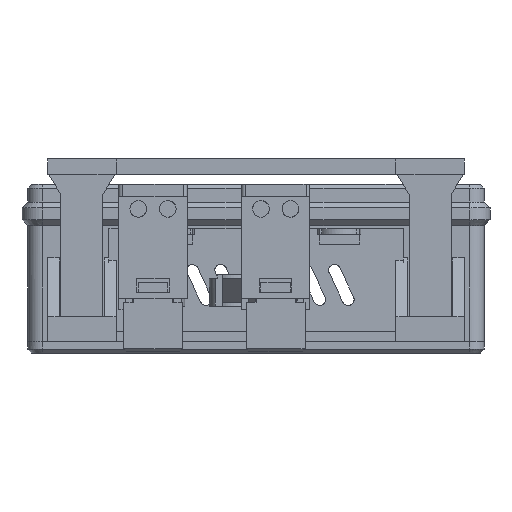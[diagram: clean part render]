
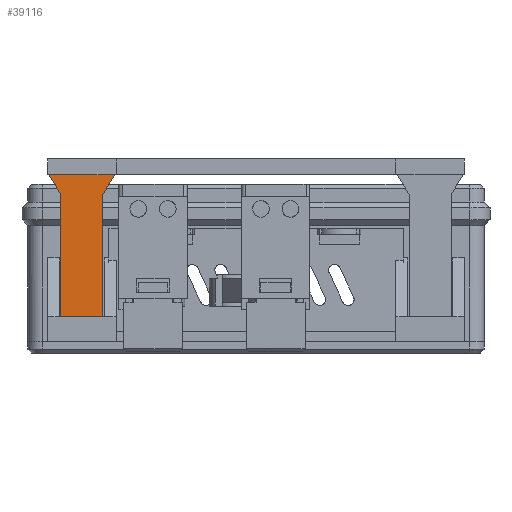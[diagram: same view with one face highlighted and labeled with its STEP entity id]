
A CAD part, left-side view. The second image highlights one B-rep face of the part: STEP entity #39116.
In plain terms, the highlighted planar face has unit normal (-1, 0, 0).
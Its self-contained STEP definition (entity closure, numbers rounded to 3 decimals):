
#36976 = PLANE('',#36977);
#36977 = AXIS2_PLACEMENT_3D('',#36978,#36979,#36980);
#36978 = CARTESIAN_POINT('',(-57.25,42.5,40.));
#36979 = DIRECTION('',(0.,0.,-1.));
#36980 = DIRECTION('',(1.,0.,0.));
#37422 = EDGE_CURVE('',#37423,#37425,#37427,.T.);
#37423 = VERTEX_POINT('',#37424);
#37424 = CARTESIAN_POINT('',(-47.25,42.269,40.));
#37425 = VERTEX_POINT('',#37426);
#37426 = CARTESIAN_POINT('',(-47.25,28.731,40.));
#37427 = SURFACE_CURVE('',#37428,(#37432,#37439),.PCURVE_S1.);
#37428 = LINE('',#37429,#37430);
#37429 = CARTESIAN_POINT('',(-47.25,42.269,40.));
#37430 = VECTOR('',#37431,1.);
#37431 = DIRECTION('',(0.,-1.,0.));
#37432 = PCURVE('',#36976,#37433);
#37433 = DEFINITIONAL_REPRESENTATION('',(#37434),#37438);
#37434 = LINE('',#37435,#37436);
#37435 = CARTESIAN_POINT('',(10.,0.231));
#37436 = VECTOR('',#37437,1.);
#37437 = DIRECTION('',(0.,1.));
#37438 = ( GEOMETRIC_REPRESENTATION_CONTEXT(2) 
PARAMETRIC_REPRESENTATION_CONTEXT() REPRESENTATION_CONTEXT('2D SPACE',''
  ) );
#37439 = PCURVE('',#37440,#37445);
#37440 = PLANE('',#37441);
#37441 = AXIS2_PLACEMENT_3D('',#37442,#37443,#37444);
#37442 = CARTESIAN_POINT('',(-47.25,42.269,11.));
#37443 = DIRECTION('',(-1.,0.,0.));
#37444 = DIRECTION('',(0.,-1.,0.));
#37445 = DEFINITIONAL_REPRESENTATION('',(#37446),#37450);
#37446 = LINE('',#37447,#37448);
#37447 = CARTESIAN_POINT('',(0.,29.));
#37448 = VECTOR('',#37449,1.);
#37449 = DIRECTION('',(1.,0.));
#37450 = ( GEOMETRIC_REPRESENTATION_CONTEXT(2) 
PARAMETRIC_REPRESENTATION_CONTEXT() REPRESENTATION_CONTEXT('2D SPACE',''
  ) );
#37468 = PLANE('',#37469);
#37469 = AXIS2_PLACEMENT_3D('',#37470,#37471,#37472);
#37470 = CARTESIAN_POINT('',(-47.25,31.2,36.));
#37471 = DIRECTION('',(0.,-0.851,-0.525));
#37472 = DIRECTION('',(1.,0.,0.));
#37522 = PLANE('',#37523);
#37523 = AXIS2_PLACEMENT_3D('',#37524,#37525,#37526);
#37524 = CARTESIAN_POINT('',(-37.05,39.8,36.));
#37525 = DIRECTION('',(0.,0.851,-0.525));
#37526 = DIRECTION('',(-1.,0.,0.));
#38912 = PLANE('',#38913);
#38913 = AXIS2_PLACEMENT_3D('',#38914,#38915,#38916);
#38914 = CARTESIAN_POINT('',(-47.25,39.8,11.));
#38915 = DIRECTION('',(0.,0.,-1.));
#38916 = DIRECTION('',(1.,0.,0.));
#38932 = VERTEX_POINT('',#38933);
#38933 = CARTESIAN_POINT('',(-47.25,31.2,11.));
#38947 = PLANE('',#38948);
#38948 = AXIS2_PLACEMENT_3D('',#38949,#38950,#38951);
#38949 = CARTESIAN_POINT('',(-47.25,31.2,11.));
#38950 = DIRECTION('',(0.,-1.,0.));
#38951 = DIRECTION('',(1.,0.,0.));
#38959 = EDGE_CURVE('',#38932,#38960,#38962,.T.);
#38960 = VERTEX_POINT('',#38961);
#38961 = CARTESIAN_POINT('',(-47.25,39.8,11.));
#38962 = SURFACE_CURVE('',#38963,(#38967,#38974),.PCURVE_S1.);
#38963 = LINE('',#38964,#38965);
#38964 = CARTESIAN_POINT('',(-47.25,31.2,11.));
#38965 = VECTOR('',#38966,1.);
#38966 = DIRECTION('',(0.,1.,0.));
#38967 = PCURVE('',#38912,#38968);
#38968 = DEFINITIONAL_REPRESENTATION('',(#38969),#38973);
#38969 = LINE('',#38970,#38971);
#38970 = CARTESIAN_POINT('',(0.,8.6));
#38971 = VECTOR('',#38972,1.);
#38972 = DIRECTION('',(0.,-1.));
#38973 = ( GEOMETRIC_REPRESENTATION_CONTEXT(2) 
PARAMETRIC_REPRESENTATION_CONTEXT() REPRESENTATION_CONTEXT('2D SPACE',''
  ) );
#38974 = PCURVE('',#37440,#38975);
#38975 = DEFINITIONAL_REPRESENTATION('',(#38976),#38980);
#38976 = LINE('',#38977,#38978);
#38977 = CARTESIAN_POINT('',(11.069,0.));
#38978 = VECTOR('',#38979,1.);
#38979 = DIRECTION('',(-1.,0.));
#38980 = ( GEOMETRIC_REPRESENTATION_CONTEXT(2) 
PARAMETRIC_REPRESENTATION_CONTEXT() REPRESENTATION_CONTEXT('2D SPACE',''
  ) );
#38996 = PLANE('',#38997);
#38997 = AXIS2_PLACEMENT_3D('',#38998,#38999,#39000);
#38998 = CARTESIAN_POINT('',(-37.05,39.8,11.));
#38999 = DIRECTION('',(0.,1.,-0.));
#39000 = DIRECTION('',(-1.,0.,0.));
#39116 = ADVANCED_FACE('',(#39117),#37440,.T.);
#39117 = FACE_BOUND('',#39118,.T.);
#39118 = EDGE_LOOP('',(#39119,#39142,#39163,#39164,#39187,#39208));
#39119 = ORIENTED_EDGE('',*,*,#39120,.T.);
#39120 = EDGE_CURVE('',#37423,#39121,#39123,.T.);
#39121 = VERTEX_POINT('',#39122);
#39122 = CARTESIAN_POINT('',(-47.25,39.8,36.));
#39123 = SURFACE_CURVE('',#39124,(#39128,#39135),.PCURVE_S1.);
#39124 = LINE('',#39125,#39126);
#39125 = CARTESIAN_POINT('',(-47.25,42.269,40.));
#39126 = VECTOR('',#39127,1.);
#39127 = DIRECTION('',(0.,-0.525,-0.851)
  );
#39128 = PCURVE('',#37440,#39129);
#39129 = DEFINITIONAL_REPRESENTATION('',(#39130),#39134);
#39130 = LINE('',#39131,#39132);
#39131 = CARTESIAN_POINT('',(0.,29.));
#39132 = VECTOR('',#39133,1.);
#39133 = DIRECTION('',(0.525,-0.851));
#39134 = ( GEOMETRIC_REPRESENTATION_CONTEXT(2) 
PARAMETRIC_REPRESENTATION_CONTEXT() REPRESENTATION_CONTEXT('2D SPACE',''
  ) );
#39135 = PCURVE('',#37522,#39136);
#39136 = DEFINITIONAL_REPRESENTATION('',(#39137),#39141);
#39137 = LINE('',#39138,#39139);
#39138 = CARTESIAN_POINT('',(10.2,4.701));
#39139 = VECTOR('',#39140,1.);
#39140 = DIRECTION('',(0.,-1.));
#39141 = ( GEOMETRIC_REPRESENTATION_CONTEXT(2) 
PARAMETRIC_REPRESENTATION_CONTEXT() REPRESENTATION_CONTEXT('2D SPACE',''
  ) );
#39142 = ORIENTED_EDGE('',*,*,#39143,.F.);
#39143 = EDGE_CURVE('',#38960,#39121,#39144,.T.);
#39144 = SURFACE_CURVE('',#39145,(#39149,#39156),.PCURVE_S1.);
#39145 = LINE('',#39146,#39147);
#39146 = CARTESIAN_POINT('',(-47.25,39.8,11.));
#39147 = VECTOR('',#39148,1.);
#39148 = DIRECTION('',(0.,0.,1.));
#39149 = PCURVE('',#37440,#39150);
#39150 = DEFINITIONAL_REPRESENTATION('',(#39151),#39155);
#39151 = LINE('',#39152,#39153);
#39152 = CARTESIAN_POINT('',(2.469,0.));
#39153 = VECTOR('',#39154,1.);
#39154 = DIRECTION('',(0.,1.));
#39155 = ( GEOMETRIC_REPRESENTATION_CONTEXT(2) 
PARAMETRIC_REPRESENTATION_CONTEXT() REPRESENTATION_CONTEXT('2D SPACE',''
  ) );
#39156 = PCURVE('',#38996,#39157);
#39157 = DEFINITIONAL_REPRESENTATION('',(#39158),#39162);
#39158 = LINE('',#39159,#39160);
#39159 = CARTESIAN_POINT('',(10.2,0.));
#39160 = VECTOR('',#39161,1.);
#39161 = DIRECTION('',(0.,1.));
#39162 = ( GEOMETRIC_REPRESENTATION_CONTEXT(2) 
PARAMETRIC_REPRESENTATION_CONTEXT() REPRESENTATION_CONTEXT('2D SPACE',''
  ) );
#39163 = ORIENTED_EDGE('',*,*,#38959,.F.);
#39164 = ORIENTED_EDGE('',*,*,#39165,.T.);
#39165 = EDGE_CURVE('',#38932,#39166,#39168,.T.);
#39166 = VERTEX_POINT('',#39167);
#39167 = CARTESIAN_POINT('',(-47.25,31.2,36.));
#39168 = SURFACE_CURVE('',#39169,(#39173,#39180),.PCURVE_S1.);
#39169 = LINE('',#39170,#39171);
#39170 = CARTESIAN_POINT('',(-47.25,31.2,11.));
#39171 = VECTOR('',#39172,1.);
#39172 = DIRECTION('',(0.,0.,1.));
#39173 = PCURVE('',#37440,#39174);
#39174 = DEFINITIONAL_REPRESENTATION('',(#39175),#39179);
#39175 = LINE('',#39176,#39177);
#39176 = CARTESIAN_POINT('',(11.069,0.));
#39177 = VECTOR('',#39178,1.);
#39178 = DIRECTION('',(0.,1.));
#39179 = ( GEOMETRIC_REPRESENTATION_CONTEXT(2) 
PARAMETRIC_REPRESENTATION_CONTEXT() REPRESENTATION_CONTEXT('2D SPACE',''
  ) );
#39180 = PCURVE('',#38947,#39181);
#39181 = DEFINITIONAL_REPRESENTATION('',(#39182),#39186);
#39182 = LINE('',#39183,#39184);
#39183 = CARTESIAN_POINT('',(0.,0.));
#39184 = VECTOR('',#39185,1.);
#39185 = DIRECTION('',(0.,1.));
#39186 = ( GEOMETRIC_REPRESENTATION_CONTEXT(2) 
PARAMETRIC_REPRESENTATION_CONTEXT() REPRESENTATION_CONTEXT('2D SPACE',''
  ) );
#39187 = ORIENTED_EDGE('',*,*,#39188,.F.);
#39188 = EDGE_CURVE('',#37425,#39166,#39189,.T.);
#39189 = SURFACE_CURVE('',#39190,(#39194,#39201),.PCURVE_S1.);
#39190 = LINE('',#39191,#39192);
#39191 = CARTESIAN_POINT('',(-47.25,28.731,40.));
#39192 = VECTOR('',#39193,1.);
#39193 = DIRECTION('',(0.,0.525,-0.851));
#39194 = PCURVE('',#37440,#39195);
#39195 = DEFINITIONAL_REPRESENTATION('',(#39196),#39200);
#39196 = LINE('',#39197,#39198);
#39197 = CARTESIAN_POINT('',(13.538,29.));
#39198 = VECTOR('',#39199,1.);
#39199 = DIRECTION('',(-0.525,-0.851));
#39200 = ( GEOMETRIC_REPRESENTATION_CONTEXT(2) 
PARAMETRIC_REPRESENTATION_CONTEXT() REPRESENTATION_CONTEXT('2D SPACE',''
  ) );
#39201 = PCURVE('',#37468,#39202);
#39202 = DEFINITIONAL_REPRESENTATION('',(#39203),#39207);
#39203 = LINE('',#39204,#39205);
#39204 = CARTESIAN_POINT('',(0.,4.701));
#39205 = VECTOR('',#39206,1.);
#39206 = DIRECTION('',(0.,-1.));
#39207 = ( GEOMETRIC_REPRESENTATION_CONTEXT(2) 
PARAMETRIC_REPRESENTATION_CONTEXT() REPRESENTATION_CONTEXT('2D SPACE',''
  ) );
#39208 = ORIENTED_EDGE('',*,*,#37422,.F.);
